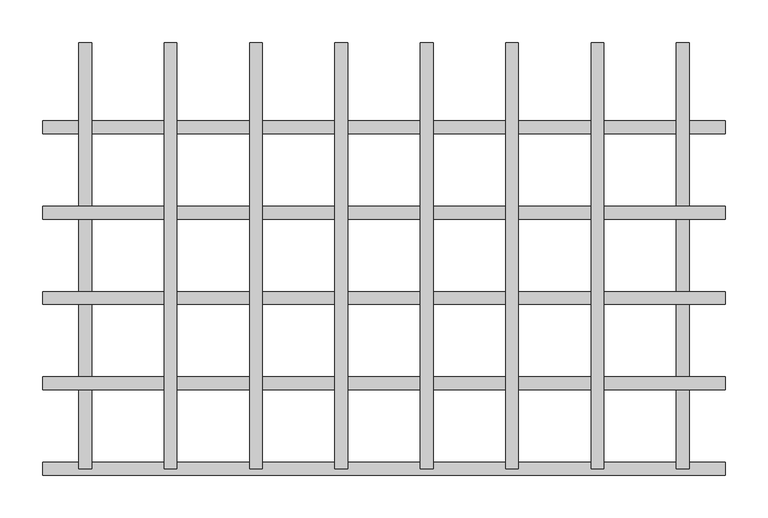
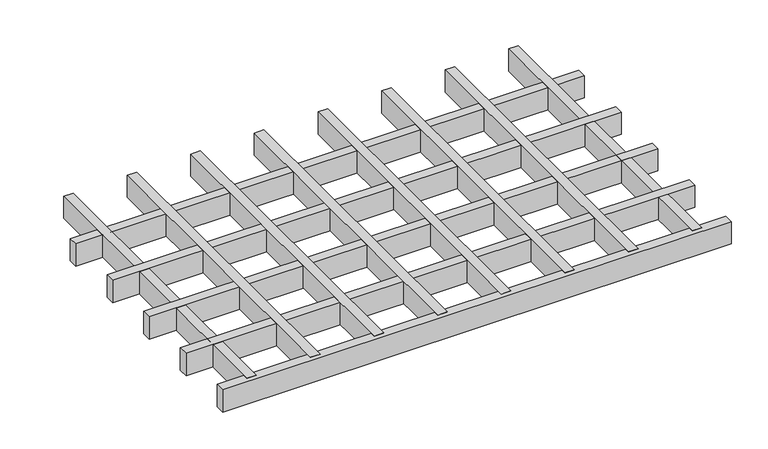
"""IFC4 building model written with IfcOpenShell, lengths in millimetres: proxy geometry, durlum_GEO_panel : durlum_GEO_15_corner_cut."""

from ifc_helpers import new_model, si_unit, origin, origin_with_axes, place, context, project, spatial, polyline, outline, extrude, source, transform, mapped, element, save


def generic_models_f3941969(model_context):
    return source(origin(), model_context, "Body", "SweptSolid", [
        extrude(outline(polyline([(242.5, 249.5), (257.5, 249.5), (257.5, -249.5), (242.5, -249.5), (242.5, 249.5)])), origin_with_axes(), (0.0, 0.0, 1.0), 37.0),
        extrude(outline(polyline([(142.5, 249.5), (157.5, 249.5), (157.5, -249.5), (142.5, -249.5), (142.5, 249.5)])), origin_with_axes(), (0.0, 0.0, 1.0), 37.0),
        extrude(outline(polyline([(42.5, 249.5), (57.5, 249.5), (57.5, -249.5), (42.5, -249.5), (42.5, 249.5)])), origin_with_axes(), (0.0, 0.0, 1.0), 37.0),
        extrude(outline(polyline([(-57.5, 249.5), (-42.5, 249.5), (-42.5, -249.5), (-57.5, -249.5), (-57.5, 249.5)])), origin_with_axes(), (0.0, 0.0, 1.0), 37.0),
        extrude(outline(polyline([(-157.5, 249.5), (-142.5, 249.5), (-142.5, -249.5), (-157.5, -249.5), (-157.5, 249.5)])), origin_with_axes(), (0.0, 0.0, 1.0), 37.0),
        extrude(outline(polyline([(-257.5, 249.5), (-242.5, 249.5), (-242.5, -249.5), (-257.5, -249.5), (-257.5, 249.5)])), origin_with_axes(), (0.0, 0.0, 1.0), 37.0),
        extrude(outline(polyline([(399.75, -142.0), (399.75, -157.0), (-399.75, -157.0), (-399.75, -142.0), (399.75, -142.0)])), origin_with_axes(), (0.0, 0.0, 1.0), 37.0),
        extrude(outline(polyline([(399.75, -42.0), (399.75, -57.0), (-399.75, -57.0), (-399.75, -42.0), (399.75, -42.0)])), origin_with_axes(), (0.0, 0.0, 1.0), 37.0),
        extrude(outline(polyline([(399.75, 58.0), (399.75, 43.0), (-399.75, 43.0), (-399.75, 58.0), (399.75, 58.0)])), origin_with_axes(), (0.0, 0.0, 1.0), 37.0),
        extrude(outline(polyline([(342.5, 249.5), (357.5, 249.5), (357.5, -249.5), (342.5, -249.5), (342.5, 249.5)])), origin_with_axes(), (0.0, 0.0, 1.0), 37.0),
        extrude(outline(polyline([(-357.5, 249.5), (-342.5, 249.5), (-342.5, -249.5), (-357.5, -249.5), (-357.5, 249.5)])), origin_with_axes(), (0.0, 0.0, 1.0), 37.0),
        extrude(outline(polyline([(399.75, -242.0), (399.75, -257.0), (-399.75, -257.0), (-399.75, -242.0), (399.75, -242.0)])), origin_with_axes(), (0.0, 0.0, 1.0), 37.0),
        extrude(outline(polyline([(399.75, 158.0), (399.75, 143.0), (-399.75, 143.0), (-399.75, 158.0), (399.75, 158.0)])), origin_with_axes(), (0.0, 0.0, 1.0), 37.0),
    ])


if __name__ == "__main__":
    model = new_model("IFC4")
    model_context = context("Model", 3, world=origin())
    ifc_project = project(units=[si_unit("LENGTHUNIT", "METRE", prefix="MILLI")], contexts=[model_context])
    site = spatial("IfcSite", under=ifc_project)
    building = spatial("IfcBuilding", under=site)
    placement = place(None, origin())
    generic_models_shape = generic_models_f3941969(model_context)
    element("IfcBuildingElementProxy", 1, Name="durlum_GEO_panel : durlum_GEO_15_corner_cut", ObjectType="durlum_GEO_panel : durlum_GEO_15_corner_cut", at=placement, inside=building, context=model_context, shape_type="MappedRepresentation", body=[
        mapped(generic_models_shape, transform((0.0, 0.0, 0.0), x_axis=(1.0, 0.0, 0.0), y_axis=(0.0, 1.0, 0.0), z_axis=(0.0, 0.0, 1.0))),
    ])
    save(model, "model.ifc")
